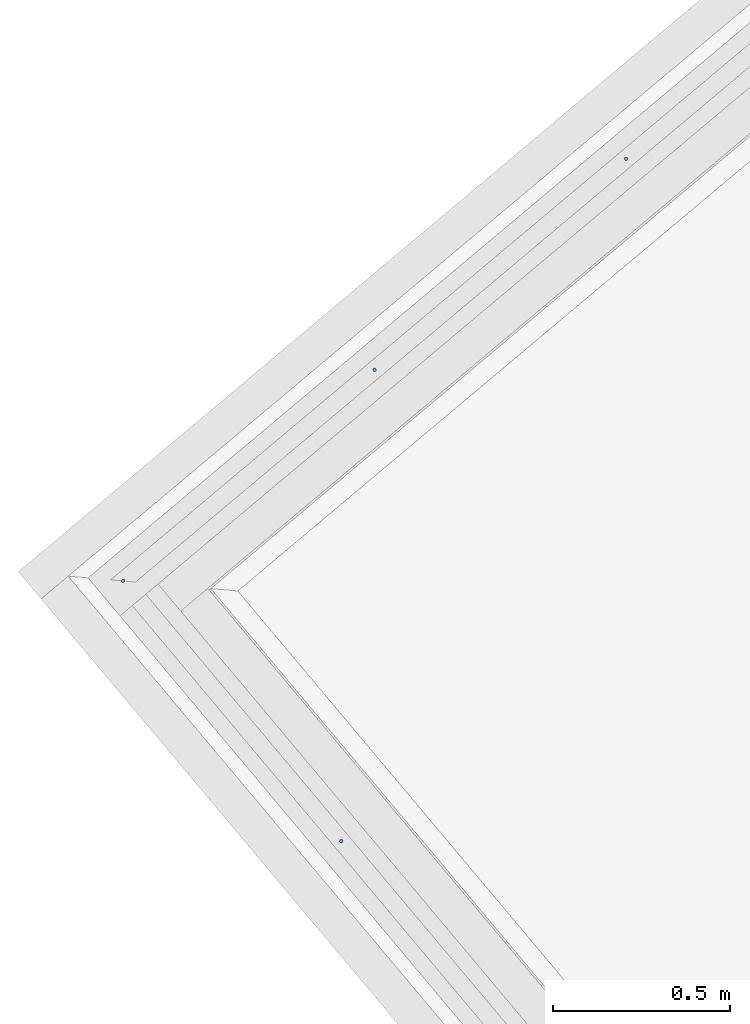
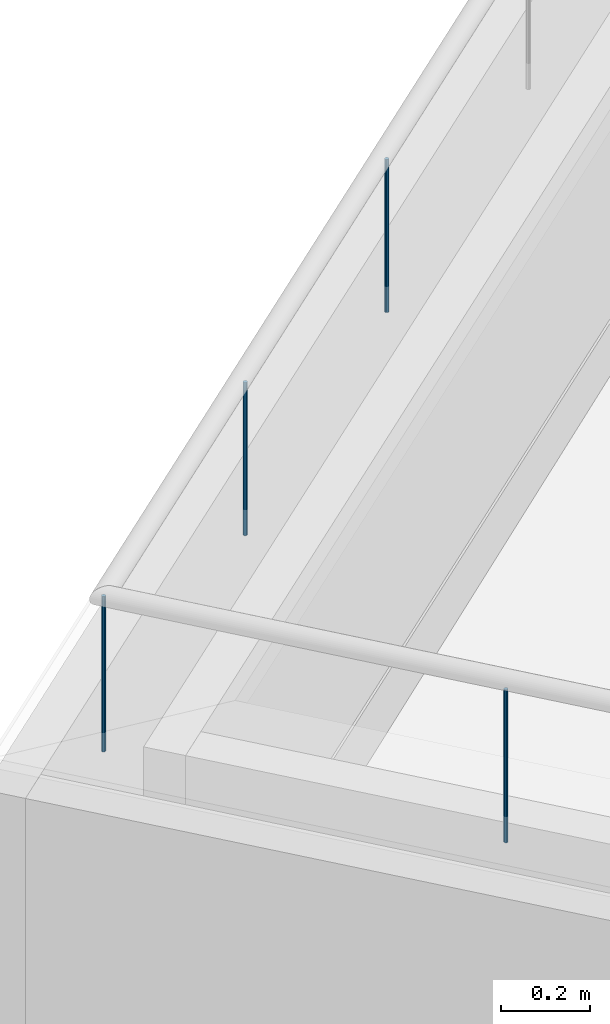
# One storey, part 12 of 321: 4 members, 1 element without a shape of its own.
"""IFC2X3 building model written with IfcOpenShell, lengths in millimetres."""

from ifc_helpers import new_model, entity, si_unit, converted_unit, derived_unit, money_unit, direction, frame, origin_with_axes, place, context, subcontext, project, spatial, faceted_brep, source, transform, mapped, material, type_object, type_shapes, element, aggregate, save


model = new_model("IFC2X3")

# Units and contexts
model_context = context("Model", 3, precision=0.01, world=origin_with_axes(), true_north=direction((0.0, 1.0)))
plan_context = context("Plan", 3, precision=0.01, world=origin_with_axes(), true_north=direction((0.0, 1.0)))
body_context = subcontext(model_context, "Body", "Model", "MODEL_VIEW")
ifc_project = project(units=[si_unit("LENGTHUNIT", "METRE", prefix="MILLI"), si_unit("AREAUNIT", "SQUARE_METRE"), si_unit("VOLUMEUNIT", "CUBIC_METRE"), converted_unit("PLANEANGLEUNIT", "DEGREE", entity("IfcPlaneAngleMeasure", 0.0174532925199), si_unit("PLANEANGLEUNIT", "RADIAN"), dimensions=[0, 0, 0, 0, 0, 0, 0]), money_unit("EUR"), converted_unit("TIMEUNIT", "Year", entity("IfcTimeMeasure", 31556926.0), si_unit("TIMEUNIT", "SECOND"), dimensions=[0, 0, 1, 0, 0, 0, 0]), si_unit("MASSUNIT", "GRAM", prefix="KILO"), si_unit("THERMODYNAMICTEMPERATUREUNIT", "DEGREE_CELSIUS"), si_unit("LUMINOUSINTENSITYUNIT", "LUMEN"), si_unit("ENERGYUNIT", "JOULE", prefix="MEGA"), derived_unit("THERMALCONDUCTANCEUNIT", [(si_unit("POWERUNIT", "WATT"), 1), (si_unit("LENGTHUNIT", "METRE"), -1), (si_unit("THERMODYNAMICTEMPERATUREUNIT", "KELVIN"), -1)]), derived_unit("SPECIFICHEATCAPACITYUNIT", [(si_unit("ENERGYUNIT", "JOULE"), 1), (si_unit("MASSUNIT", "GRAM", prefix="KILO"), -1), (si_unit("THERMODYNAMICTEMPERATUREUNIT", "KELVIN"), -1)]), derived_unit("MASSDENSITYUNIT", [(si_unit("MASSUNIT", "GRAM", prefix="KILO"), 1), (si_unit("VOLUMEUNIT", "CUBIC_METRE"), -1)])], contexts=[model_context, plan_context])

# Site, building, storey
site_placement = place(None, origin_with_axes())
site = spatial("IfcSite", under=ifc_project, at=site_placement, Name="Fortuinstraat Woensdrecht", CompositionType="ELEMENT")
building_placement = place(site_placement, origin_with_axes())
building = spatial("IfcBuilding", under=site, at=building_placement, Name="IKC Fortuna", CompositionType="ELEMENT")
storey_placement = place(building_placement, frame((0.0, 0.0, 4000.0), z_axis=(0.0, 0.0, 1.0), x_axis=(1.0, 0.0, 0.0)))
storey = spatial("IfcBuildingStorey", under=building, at=storey_placement, Name="01 eerste verdieping", CompositionType="ELEMENT", Elevation=4000.0)

# Railing, members
railing_type = type_object("IfcRailingType", Name="Railing Type", PredefinedType="NOTDEFINED")
railing_placement = place(storey_placement, frame((4151.56334028, 3601.06192057, 2353.5), z_axis=(0.0, 0.0, 1.0), x_axis=(1.0, 0.0, 0.0)))
railing = element("IfcRailing", 1, at=railing_placement, inside=storey, type_object=railing_type, Name="34_Reling_Reling vide", PredefinedType="NOTDEFINED")
ifc_material = material(Name="Metaal - Staal AFW")
member_type_1 = type_object("IfcMemberType", Name="IfcMember", PredefinedType="POST")
shared_shape_1 = source(origin_with_axes(), body_context, "Body", "Brep", [
    faceted_brep([(0.0, -5.0, 0.0), (0.868240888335, -4.92403876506, 0.0), (0.868240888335, -4.92403876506, 425.0), (0.0, -5.0, 425.0), (-0.868240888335, -4.92403876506, 0.0), (-1.71010071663, -4.69846310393, 0.0), (-2.5, -4.33012701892, 0.0), (-3.21393804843, -3.83022221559, 0.0), (-3.83022221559, -3.21393804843, 0.0), (-4.33012701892, -2.5, 0.0), (-4.69846310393, -1.71010071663, 0.0), (-4.92403876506, -0.868240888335, 0.0), (-5.0, 0.0, 0.0), (-4.92403876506, 0.868240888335, 0.0), (-4.69846310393, 1.71010071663, 0.0), (-4.33012701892, 2.5, 0.0), (-3.83022221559, 3.21393804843, 0.0), (-3.21393804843, 3.83022221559, 0.0), (-2.5, 4.33012701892, 0.0), (-1.71010071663, 4.69846310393, 0.0), (-0.868240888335, 4.92403876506, 0.0), (0.0, 5.0, 0.0), (0.868240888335, 4.92403876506, 0.0), (1.71010071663, 4.69846310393, 0.0), (2.5, 4.33012701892, 0.0), (3.21393804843, 3.83022221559, 0.0), (3.83022221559, 3.21393804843, 0.0), (4.33012701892, 2.5, 0.0), (4.69846310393, 1.71010071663, 0.0), (4.92403876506, 0.868240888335, 0.0), (5.0, 0.0, 0.0), (4.92403876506, -0.868240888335, 0.0), (4.69846310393, -1.71010071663, 0.0), (4.33012701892, -2.5, 0.0), (3.83022221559, -3.21393804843, 0.0), (3.21393804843, -3.83022221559, 0.0), (2.5, -4.33012701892, 0.0), (1.71010071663, -4.69846310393, 0.0), (1.71010071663, -4.69846310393, 425.0), (2.5, -4.33012701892, 425.0), (3.21393804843, -3.83022221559, 425.0), (3.83022221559, -3.21393804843, 425.0), (4.33012701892, -2.5, 425.0), (4.69846310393, -1.71010071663, 425.0), (4.92403876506, -0.868240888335, 425.0), (5.0, 0.0, 425.0), (4.92403876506, 0.868240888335, 425.0), (4.69846310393, 1.71010071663, 425.0), (4.33012701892, 2.5, 425.0), (3.83022221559, 3.21393804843, 425.0), (3.21393804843, 3.83022221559, 425.0), (2.5, 4.33012701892, 425.0), (1.71010071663, 4.69846310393, 425.0), (0.868240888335, 4.92403876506, 425.0), (0.0, 5.0, 425.0), (-0.868240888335, 4.92403876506, 425.0), (-1.71010071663, 4.69846310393, 425.0), (-2.5, 4.33012701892, 425.0), (-3.21393804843, 3.83022221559, 425.0), (-3.83022221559, 3.21393804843, 425.0), (-4.33012701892, 2.5, 425.0), (-4.69846310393, 1.71010071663, 425.0), (-4.92403876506, 0.868240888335, 425.0), (-5.0, 0.0, 425.0), (-4.92403876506, -0.868240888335, 425.0), (-4.69846310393, -1.71010071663, 425.0), (-4.33012701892, -2.5, 425.0), (-3.83022221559, -3.21393804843, 425.0), (-3.21393804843, -3.83022221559, 425.0), (-2.5, -4.33012701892, 425.0), (-1.71010071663, -4.69846310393, 425.0), (-0.868240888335, -4.92403876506, 425.0)], [[[0, 1, 2, 3]], [[0, 4, 5, 6, 7, 8, 9, 10, 11, 12, 13, 14, 15, 16, 17, 18, 19, 20, 21, 22, 23, 24, 25, 26, 27, 28, 29, 30, 31, 32, 33, 34, 35, 36, 37, 1]], [[1, 37, 38, 2]], [[3, 2, 38, 39, 40, 41, 42, 43, 44, 45, 46, 47, 48, 49, 50, 51, 52, 53, 54, 55, 56, 57, 58, 59, 60, 61, 62, 63, 64, 65, 66, 67, 68, 69, 70, 71]], [[4, 0, 3, 71]], [[5, 4, 71, 70]], [[6, 5, 70, 69]], [[7, 6, 69, 68]], [[8, 7, 68, 67]], [[9, 8, 67, 66]], [[10, 9, 66, 65]], [[11, 10, 65, 64]], [[12, 11, 64, 63]], [[13, 12, 63, 62]], [[14, 13, 62, 61]], [[15, 14, 61, 60]], [[16, 15, 60, 59]], [[17, 16, 59, 58]], [[18, 17, 58, 57]], [[19, 18, 57, 56]], [[20, 19, 56, 55]], [[21, 20, 55, 54]], [[22, 21, 54, 53]], [[23, 22, 53, 52]], [[24, 23, 52, 51]], [[25, 24, 51, 50]], [[26, 25, 50, 49]], [[27, 26, 49, 48]], [[28, 27, 48, 47]], [[29, 28, 47, 46]], [[30, 29, 46, 45]], [[31, 30, 45, 44]], [[32, 31, 44, 43]], [[33, 32, 43, 42]], [[34, 33, 42, 41]], [[35, 34, 41, 40]], [[36, 35, 40, 39]], [[37, 36, 39, 38]]]),
])
type_shapes(member_type_1, [shared_shape_1])
member_1_placement = place(railing_placement, frame((-4250.18158399, -3592.43394223, 0.0), z_axis=(0.0, 0.0, 1.0), x_axis=(1.0, 0.0, 0.0)))
member_1 = element("IfcMember", 2, at=member_1_placement, type_object=member_type_1, material=ifc_material, Name="_Reling - baluster_", ObjectType="POST", context=body_context, shape_type="MappedRepresentation", body=[
    mapped(shared_shape_1, transform((0.0, 0.0, 0.0), x_axis=(-0.642787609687, 0.766044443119, 0.0), y_axis=(-0.766044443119, -0.642787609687, 0.0), z_axis=(0.0, 0.0, 1.0))),
])
member_type_2 = type_object("IfcMemberType", Name="IfcMember", PredefinedType="MEMBER")
shared_shape_2 = source(origin_with_axes(), body_context, "Body", "Brep", [
    faceted_brep([(0.0, -5.0, 0.0), (0.868240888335, -4.92403876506, 0.0), (0.868240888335, -4.92403876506, 418.5), (0.0, -5.0, 418.5), (-0.868240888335, -4.92403876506, 0.0), (-1.71010071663, -4.69846310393, 0.0), (-2.5, -4.33012701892, 0.0), (-3.21393804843, -3.83022221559, 0.0), (-3.83022221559, -3.21393804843, 0.0), (-4.33012701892, -2.5, 0.0), (-4.69846310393, -1.71010071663, 0.0), (-4.92403876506, -0.868240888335, 0.0), (-5.0, 0.0, 0.0), (-4.92403876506, 0.868240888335, 0.0), (-4.69846310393, 1.71010071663, 0.0), (-4.33012701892, 2.5, 0.0), (-3.83022221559, 3.21393804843, 0.0), (-3.21393804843, 3.83022221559, 0.0), (-2.5, 4.33012701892, 0.0), (-1.71010071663, 4.69846310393, 0.0), (-0.868240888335, 4.92403876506, 0.0), (0.0, 5.0, 0.0), (0.868240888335, 4.92403876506, 0.0), (1.71010071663, 4.69846310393, 0.0), (2.5, 4.33012701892, 0.0), (3.21393804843, 3.83022221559, 0.0), (3.83022221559, 3.21393804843, 0.0), (4.33012701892, 2.5, 0.0), (4.69846310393, 1.71010071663, 0.0), (4.92403876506, 0.868240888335, 0.0), (5.0, 0.0, 0.0), (4.92403876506, -0.868240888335, 0.0), (4.69846310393, -1.71010071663, 0.0), (4.33012701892, -2.5, 0.0), (3.83022221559, -3.21393804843, 0.0), (3.21393804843, -3.83022221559, 0.0), (2.5, -4.33012701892, 0.0), (1.71010071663, -4.69846310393, 0.0), (1.71010071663, -4.69846310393, 418.5), (2.5, -4.33012701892, 418.5), (3.21393804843, -3.83022221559, 418.5), (3.83022221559, -3.21393804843, 418.5), (4.33012701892, -2.5, 418.5), (4.69846310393, -1.71010071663, 418.5), (4.92403876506, -0.868240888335, 418.5), (5.0, 0.0, 418.5), (4.92403876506, 0.868240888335, 418.5), (4.69846310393, 1.71010071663, 418.5), (4.33012701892, 2.5, 418.5), (3.83022221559, 3.21393804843, 418.5), (3.21393804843, 3.83022221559, 418.5), (2.5, 4.33012701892, 418.5), (1.71010071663, 4.69846310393, 418.5), (0.868240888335, 4.92403876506, 418.5), (0.0, 5.0, 418.5), (-0.868240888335, 4.92403876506, 418.5), (-1.71010071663, 4.69846310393, 418.5), (-2.5, 4.33012701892, 418.5), (-3.21393804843, 3.83022221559, 418.5), (-3.83022221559, 3.21393804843, 418.5), (-4.33012701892, 2.5, 418.5), (-4.69846310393, 1.71010071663, 418.5), (-4.92403876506, 0.868240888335, 418.5), (-5.0, 0.0, 418.5), (-4.92403876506, -0.868240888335, 418.5), (-4.69846310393, -1.71010071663, 418.5), (-4.33012701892, -2.5, 418.5), (-3.83022221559, -3.21393804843, 418.5), (-3.21393804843, -3.83022221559, 418.5), (-2.5, -4.33012701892, 418.5), (-1.71010071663, -4.69846310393, 418.5), (-0.868240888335, -4.92403876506, 418.5)], [[[0, 1, 2, 3]], [[0, 4, 5, 6, 7, 8, 9, 10, 11, 12, 13, 14, 15, 16, 17, 18, 19, 20, 21, 22, 23, 24, 25, 26, 27, 28, 29, 30, 31, 32, 33, 34, 35, 36, 37, 1]], [[1, 37, 38, 2]], [[3, 2, 38, 39, 40, 41, 42, 43, 44, 45, 46, 47, 48, 49, 50, 51, 52, 53, 54, 55, 56, 57, 58, 59, 60, 61, 62, 63, 64, 65, 66, 67, 68, 69, 70, 71]], [[4, 0, 3, 71]], [[5, 4, 71, 70]], [[6, 5, 70, 69]], [[7, 6, 69, 68]], [[8, 7, 68, 67]], [[9, 8, 67, 66]], [[10, 9, 66, 65]], [[11, 10, 65, 64]], [[12, 11, 64, 63]], [[13, 12, 63, 62]], [[14, 13, 62, 61]], [[15, 14, 61, 60]], [[16, 15, 60, 59]], [[17, 16, 59, 58]], [[18, 17, 58, 57]], [[19, 18, 57, 56]], [[20, 19, 56, 55]], [[21, 20, 55, 54]], [[22, 21, 54, 53]], [[23, 22, 53, 52]], [[24, 23, 52, 51]], [[25, 24, 51, 50]], [[26, 25, 50, 49]], [[27, 26, 49, 48]], [[28, 27, 48, 47]], [[29, 28, 47, 46]], [[30, 29, 46, 45]], [[31, 30, 45, 44]], [[32, 31, 44, 43]], [[33, 32, 43, 42]], [[34, 33, 42, 41]], [[35, 34, 41, 40]], [[36, 35, 40, 39]], [[37, 36, 39, 38]]]),
])
type_shapes(member_type_2, [shared_shape_2])
member_2_placement = place(railing_placement, frame((-2829.19467681, -2400.08435252, -18.5), z_axis=(0.0, 0.0, 1.0), x_axis=(1.0, 0.0, 0.0)))
member_2 = element("IfcMember", 3, at=member_2_placement, type_object=member_type_2, material=ifc_material, Name="_Onderdeel_Spijlen-x", ObjectType="MEMBER", context=body_context, shape_type="MappedRepresentation", body=[
    mapped(shared_shape_2, transform((0.0, 0.0, 0.0), x_axis=(-0.642787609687, 0.766044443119, 0.0), y_axis=(-0.766044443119, -0.642787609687, 0.0), z_axis=(0.0, 0.0, 1.0))),
])
member_3_placement = place(railing_placement, frame((-3539.6881304, -2996.25914737, -18.5), z_axis=(0.0, 0.0, 1.0), x_axis=(1.0, 0.0, 0.0)))
member_3 = element("IfcMember", 4, at=member_3_placement, type_object=member_type_2, material=ifc_material, Name="_Onderdeel_Spijlen-x", ObjectType="MEMBER", context=body_context, shape_type="MappedRepresentation", body=[
    mapped(shared_shape_2, transform((0.0, 0.0, 0.0), x_axis=(-0.642787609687, 0.766044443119, 0.0), y_axis=(-0.766044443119, -0.642787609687, 0.0), z_axis=(0.0, 0.0, 1.0))),
])
member_4_placement = place(railing_placement, frame((-3633.44084848, -4327.43692924, -18.5), z_axis=(0.0, 0.0, 1.0), x_axis=(1.0, 0.0, 0.0)))
member_4 = element("IfcMember", 5, at=member_4_placement, type_object=member_type_2, material=ifc_material, Name="_Onderdeel_Spijlen-x", ObjectType="MEMBER", context=body_context, shape_type="MappedRepresentation", body=[
    mapped(shared_shape_2, transform((0.0, 0.0, 0.0), x_axis=(-0.766044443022, -0.642787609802, 0.0), y_axis=(0.642787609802, -0.766044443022, 0.0), z_axis=(0.0, 0.0, 1.0))),
])
aggregate(railing, [member_1, member_2, member_3, member_4])

save(model, "model.ifc")
